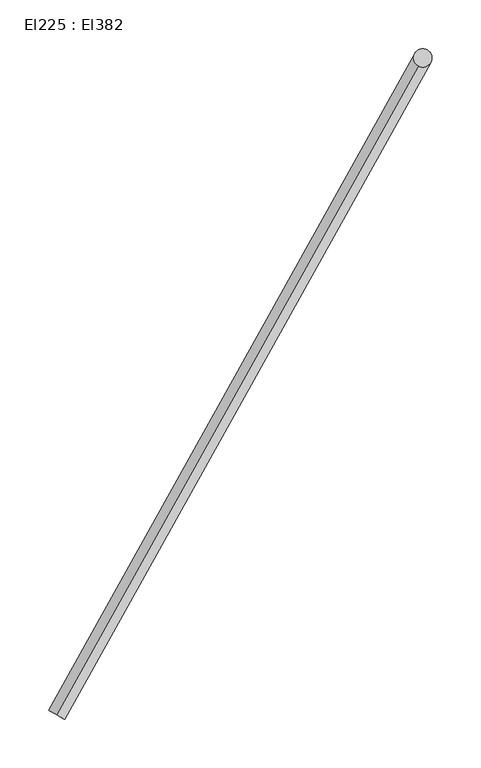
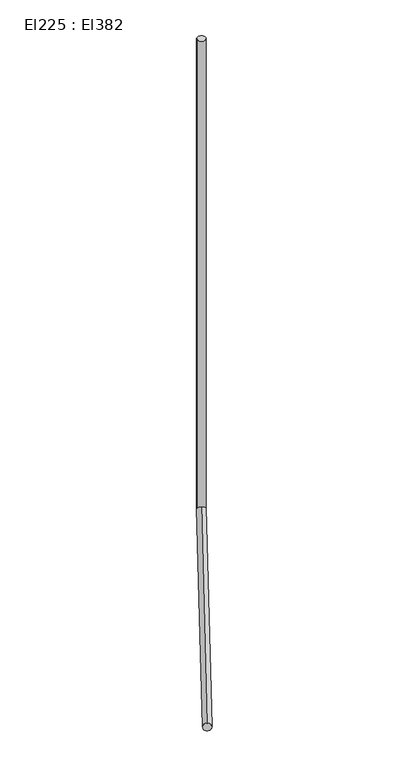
"""IFC4 building model written with IfcOpenShell, lengths in millimetres: cable carrier segment geometry, El225 : El382."""

from ifc_helpers import new_model, si_unit, point, frame, frame_2d, origin, place, context, project, spatial, circle_curve, trimmed, segment, composite_curve, outline, extrude, source, transform, mapped, element, save


def el225_el382_626b17a3(model_context):
    return source(origin(), model_context, "Body", "SweptSolid", [
        extrude(outline(composite_curve([segment(trimmed(circle_curve(frame_2d((5414.4696511, 14629.6731745)), 9.5), [point((5404.9696511, 14629.6731745))], [point((5423.9696511, 14629.6731745))], False, "CARTESIAN"), True, "CONTINUOUS"), segment(trimmed(circle_curve(frame_2d((5414.4696511, 14629.6731745)), 9.5), [point((5423.9696511, 14629.6731745))], [point((5404.9696511, 14629.6731745))], False, "CARTESIAN"), True, "CONTINUOUS")], self_intersect=False)), frame((0.0, 0.0, 1500.0), z_axis=(0.0, 0.0, 1.0), x_axis=(1.0, 0.0, 0.0)), (0.0, 0.0, 1.0), 1160.0),
        extrude(outline(composite_curve([segment(trimmed(circle_curve(frame_2d((0.0, -9.5)), 9.5), [point((0.0, -19.0))], [point((0.0, 0.0))], False, "CARTESIAN"), True, "CONTINUOUS"), segment(trimmed(circle_curve(frame_2d((0.0, -9.5)), 9.5), [point((0.0, 0.0))], [point((0.0, -19.0))], False, "CARTESIAN"), True, "CONTINUOUS")], self_intersect=False)), frame((5038.5376511, 13955.0761745, 1509.5), z_axis=(0.4867861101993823, 0.8735211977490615, 0.0), x_axis=(-0.8735211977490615, 0.4867861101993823, 0.0)), (0.0, 0.0, 1.0), 772.273),
    ])


if __name__ == "__main__":
    model = new_model("IFC4")
    model_context = context("Model", 3, world=origin())
    ifc_project = project(units=[si_unit("LENGTHUNIT", "METRE", prefix="MILLI")], contexts=[model_context])
    site = spatial("IfcSite", under=ifc_project)
    building = spatial("IfcBuilding", under=site)
    placement = place(None, origin())
    el225_el382_shape = el225_el382_626b17a3(model_context)
    element("IfcCableCarrierSegment", 1, ObjectType="El225 : El382", at=placement, inside=building, context=model_context, shape_type="MappedRepresentation", body=[
        mapped(el225_el382_shape, transform((0.0, 0.0, 0.0), x_axis=(1.0, 0.0, 0.0), y_axis=(0.0, 1.0, 0.0), z_axis=(0.0, 0.0, 1.0))),
    ])
    save(model, "model.ifc")
